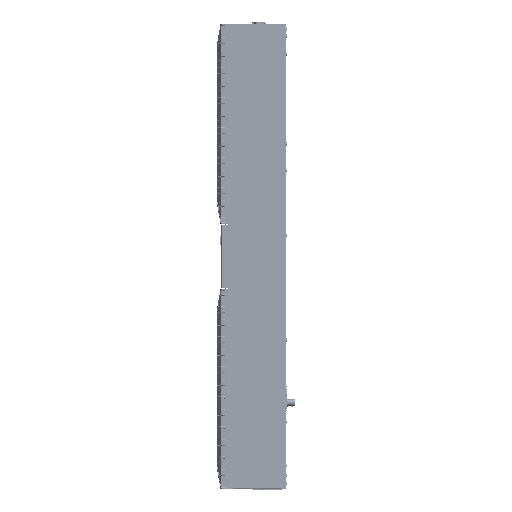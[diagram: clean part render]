
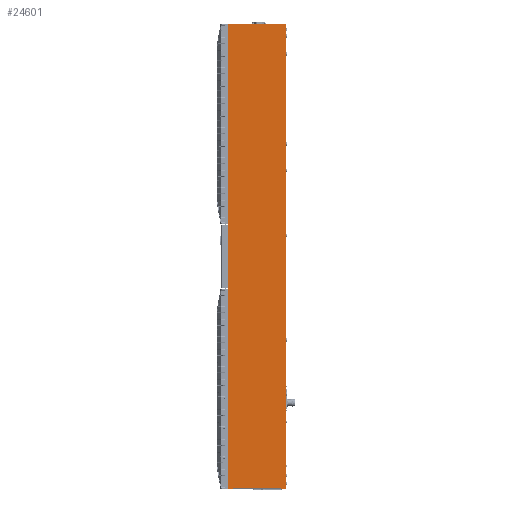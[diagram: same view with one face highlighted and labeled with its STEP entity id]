
A CAD part, left-side view. The second image highlights one B-rep face of the part: STEP entity #24601.
In plain terms, the highlighted planar face has unit normal (-1, 0, 0).
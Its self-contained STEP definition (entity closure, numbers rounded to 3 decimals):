
#435=DIRECTION('',(0.,0.5,-0.866));
#436=VECTOR('',#435,2.309);
#437=CARTESIAN_POINT('',(-227.5,178.,-772.));
#438=LINE('',#437,#436);
#439=DIRECTION('',(0.,1.,0.));
#440=VECTOR('',#439,13.345);
#441=CARTESIAN_POINT('',(-227.5,179.155,-774.));
#442=LINE('',#441,#440);
#443=CARTESIAN_POINT('',(-227.5,192.5,-772.5));
#444=DIRECTION('',(1.,0.,0.));
#445=DIRECTION('',(0.,0.,-1.));
#446=AXIS2_PLACEMENT_3D('',#443,#444,#445);
#448=DIRECTION('',(0.,0.,1.));
#449=VECTOR('',#448,47.923);
#450=CARTESIAN_POINT('',(-227.5,194.,-772.5));
#451=LINE('',#450,#449);
#452=DIRECTION('',(0.,-0.866,0.5));
#453=VECTOR('',#452,1.155);
#454=CARTESIAN_POINT('',(-227.5,194.,-724.577));
#455=LINE('',#454,#453);
#456=DIRECTION('',(0.,1.,0.));
#457=VECTOR('',#456,13.845);
#458=CARTESIAN_POINT('',(-227.5,2.,-774.));
#459=LINE('',#458,#457);
#460=DIRECTION('',(0.,0.5,0.866));
#461=VECTOR('',#460,2.309);
#462=CARTESIAN_POINT('',(-227.5,15.845,-774.));
#463=LINE('',#462,#461);
#478=DIRECTION('',(0.,-1.,0.));
#479=VECTOR('',#478,161.);
#480=CARTESIAN_POINT('',(-227.5,178.,-772.));
#481=LINE('',#480,#479);
#13194=DIRECTION('',(0.,1.,0.));
#13195=VECTOR('',#13194,191.);
#13196=CARTESIAN_POINT('',(-227.5,2.,775.));
#13197=LINE('',#13196,#13195);
#13216=DIRECTION('',(0.,0.,-1.));
#13217=VECTOR('',#13216,1499.);
#13218=CARTESIAN_POINT('',(-227.5,193.,775.));
#13219=LINE('',#13218,#13217);
#13957=DIRECTION('',(0.,0.,1.));
#13958=VECTOR('',#13957,1549.);
#13959=CARTESIAN_POINT('',(-227.5,2.,-774.));
#13960=LINE('',#13959,#13958);
#18899=CARTESIAN_POINT('',(-227.5,193.,-724.));
#18901=VERTEX_POINT('',#18899);
#18903=CARTESIAN_POINT('',(-227.5,194.,-724.577));
#18904=VERTEX_POINT('',#18903);
#18907=CARTESIAN_POINT('',(-227.5,178.,-772.));
#18908=CARTESIAN_POINT('',(-227.5,179.155,-774.));
#18909=VERTEX_POINT('',#18907);
#18910=VERTEX_POINT('',#18908);
#18911=CARTESIAN_POINT('',(-227.5,192.5,-774.));
#18912=VERTEX_POINT('',#18911);
#18913=CARTESIAN_POINT('',(-227.5,194.,-772.5));
#18914=VERTEX_POINT('',#18913);
#18915=CARTESIAN_POINT('',(-227.5,193.,775.));
#18916=VERTEX_POINT('',#18915);
#18917=CARTESIAN_POINT('',(-227.5,2.,775.));
#18918=VERTEX_POINT('',#18917);
#18919=CARTESIAN_POINT('',(-227.5,2.,-774.));
#18920=VERTEX_POINT('',#18919);
#18921=CARTESIAN_POINT('',(-227.5,15.845,-774.));
#18922=VERTEX_POINT('',#18921);
#18923=CARTESIAN_POINT('',(-227.5,17.,-772.));
#18924=VERTEX_POINT('',#18923);
#24573=CARTESIAN_POINT('',(-227.5,195.,-773.));
#24574=DIRECTION('',(-1.,0.,0.));
#24575=DIRECTION('',(0.,-1.,0.));
#24576=AXIS2_PLACEMENT_3D('',#24573,#24574,#24575);
#24577=PLANE('',#24576);
#24579=ORIENTED_EDGE('',*,*,#24578,.T.);
#24581=ORIENTED_EDGE('',*,*,#24580,.T.);
#24583=ORIENTED_EDGE('',*,*,#24582,.T.);
#24585=ORIENTED_EDGE('',*,*,#24584,.T.);
#24586=ORIENTED_EDGE('',*,*,#24563,.T.);
#24588=ORIENTED_EDGE('',*,*,#24587,.F.);
#24590=ORIENTED_EDGE('',*,*,#24589,.F.);
#24592=ORIENTED_EDGE('',*,*,#24591,.F.);
#24594=ORIENTED_EDGE('',*,*,#24593,.T.);
#24596=ORIENTED_EDGE('',*,*,#24595,.T.);
#24598=ORIENTED_EDGE('',*,*,#24597,.F.);
#24599=EDGE_LOOP('',(#24579,#24581,#24583,#24585,#24586,#24588,#24590,#24592,
#24594,#24596,#24598));
#24600=FACE_OUTER_BOUND('',#24599,.F.);
#24601=ADVANCED_FACE('',(#24600),#24577,.T.);
#447=CIRCLE('',#446,1.5);
#24563=EDGE_CURVE('',#18904,#18901,#455,.T.);
#24578=EDGE_CURVE('',#18909,#18910,#438,.T.);
#24580=EDGE_CURVE('',#18910,#18912,#442,.T.);
#24582=EDGE_CURVE('',#18912,#18914,#447,.T.);
#24584=EDGE_CURVE('',#18914,#18904,#451,.T.);
#24587=EDGE_CURVE('',#18916,#18901,#13219,.T.);
#24589=EDGE_CURVE('',#18918,#18916,#13197,.T.);
#24591=EDGE_CURVE('',#18920,#18918,#13960,.T.);
#24593=EDGE_CURVE('',#18920,#18922,#459,.T.);
#24595=EDGE_CURVE('',#18922,#18924,#463,.T.);
#24597=EDGE_CURVE('',#18909,#18924,#481,.T.);
